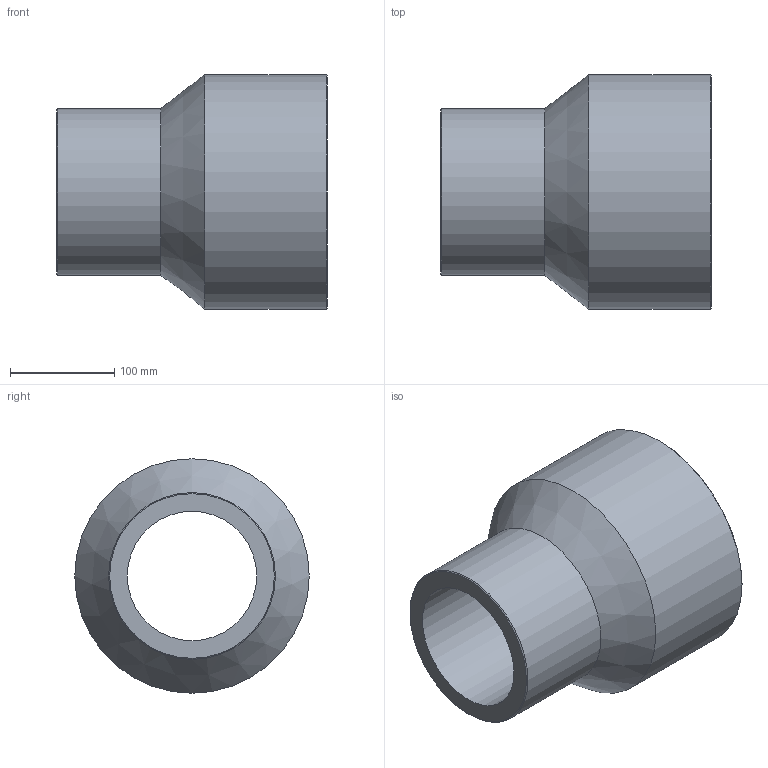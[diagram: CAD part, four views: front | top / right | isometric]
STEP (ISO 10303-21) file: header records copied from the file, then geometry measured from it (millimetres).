
FILE_DESCRIPTION(/* description */ ('Unknown'),/* implementation_level */ '2;1');
FILE_NAME(/* name */ 'RP225160G',/* time_stamp */ '2021-09-16T17:14:24+02:00',/* author */ ('Unknown'),/* organization */ ('Unknown'),/* preprocessor_version */ 'ST-DEVELOPER v16.7',/* originating_system */ 'Solid Edge',/* authorisation */ 'Unknown');
FILE_SCHEMA (('AUTOMOTIVE_DESIGN {1 0 10303 214 3 1 1}'));
Length unit declared in the file: millimetre
Products named in the file (1): RP225160G
Bounding box: 260 x 225 x 225 mm (x, y, z)
Volume: 3260163.9 mm3; surface area: 314649 mm2
Topology: 1 solids, 1 shells, 10 faces, 19 edges, 11 vertices
Faces by surface type: cylinder 4, cone 4, plane 2
Full cylindrical faces by diameter (mm): 124.2 x1, 160 x1, 174.6 x1, 225 x1
Entity records: 238 total; most frequent: DIRECTION 42, CARTESIAN_POINT 31, AXIS2_PLACEMENT_3D 21, ORIENTED_EDGE 20, EDGE_LOOP 20, FACE_BOUND 20, EDGE_CURVE 10, VERTEX_POINT 10
